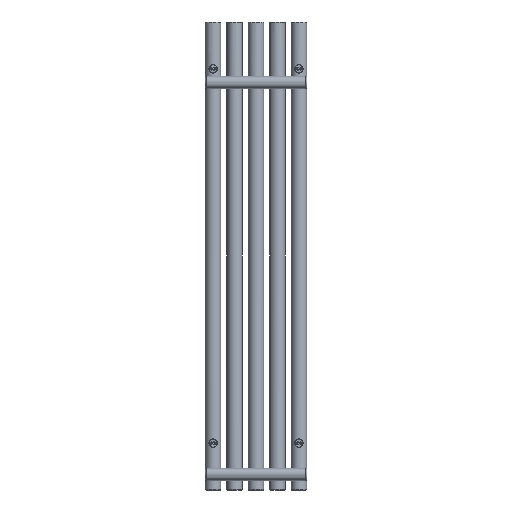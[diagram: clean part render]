
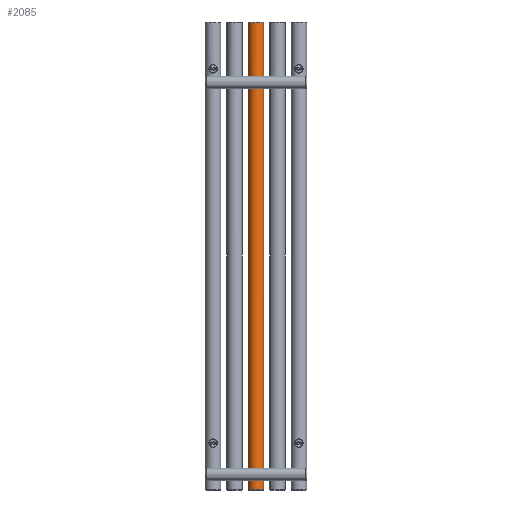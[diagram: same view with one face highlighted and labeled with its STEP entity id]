
A CAD part, front view. The second image highlights one B-rep face of the part: STEP entity #2085.
In plain terms, the highlighted cylindrical face has radius 20 mm (diameter 40 mm), a full revolution.
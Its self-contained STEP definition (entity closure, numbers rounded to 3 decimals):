
#169=FACE_BOUND('',#527,.T.);
#170=FACE_BOUND('',#528,.T.);
#199=LINE('',#3984,#273);
#273=VECTOR('',#2599,20.);
#347=CYLINDRICAL_SURFACE('',#2275,20.);
#381=FACE_OUTER_BOUND('',#526,.T.);
#526=EDGE_LOOP('',(#1470,#1471,#1472,#1473,#1474));
#527=EDGE_LOOP('',(#1475));
#528=EDGE_LOOP('',(#1476));
#692=B_SPLINE_CURVE_WITH_KNOTS('',3,(#3959,#3960,#3961,#3962,#3963,#3964,
#3965,#3966,#3967,#3968,#3969,#3970,#3971,#3972,#3973,#3974,#3975,#3976,
#3977,#3978),.UNSPECIFIED.,.T.,.F.,(4,1,1,1,1,1,1,1,1,1,1,1,1,1,1,1,1,4),
(-5.132,-4.765,-4.399,-3.91,
-3.666,-3.421,-3.177,-2.933,
-2.444,-2.322,-2.199,-1.955,
-1.711,-1.466,-1.1,-0.733,
-0.367,0.),.UNSPECIFIED.);
#693=B_SPLINE_CURVE_WITH_KNOTS('',3,(#3988,#3989,#3990,#3991,#3992,#3993,
#3994,#3995,#3996,#3997,#3998,#3999,#4000,#4001,#4002,#4003,#4004,#4005,
#4006),.UNSPECIFIED.,.T.,.F.,(4,1,1,1,1,1,1,1,1,1,1,1,1,1,1,1,4),(-5.132,
-4.765,-4.399,-3.91,-3.666,
-3.421,-3.177,-2.933,-2.444,
-2.199,-1.955,-1.711,-1.466,-1.1,
-0.733,-0.367,0.),.UNSPECIFIED.);
#749=CIRCLE('',#2276,20.);
#750=CIRCLE('',#2277,20.);
#751=CIRCLE('',#2278,20.);
#918=VERTEX_POINT('',#3957);
#919=VERTEX_POINT('',#3980);
#920=VERTEX_POINT('',#3981);
#921=VERTEX_POINT('',#3983);
#922=VERTEX_POINT('',#3987);
#1140=EDGE_CURVE('',#918,#918,#692,.T.);
#1141=EDGE_CURVE('',#919,#920,#749,.T.);
#1142=EDGE_CURVE('',#919,#921,#199,.T.);
#1143=EDGE_CURVE('',#921,#921,#750,.T.);
#1144=EDGE_CURVE('',#920,#919,#751,.T.);
#1145=EDGE_CURVE('',#922,#922,#693,.T.);
#1470=ORIENTED_EDGE('',*,*,#1141,.F.);
#1471=ORIENTED_EDGE('',*,*,#1142,.T.);
#1472=ORIENTED_EDGE('',*,*,#1143,.F.);
#1473=ORIENTED_EDGE('',*,*,#1142,.F.);
#1474=ORIENTED_EDGE('',*,*,#1144,.F.);
#1475=ORIENTED_EDGE('',*,*,#1145,.F.);
#1476=ORIENTED_EDGE('',*,*,#1140,.F.);
#2085=ADVANCED_FACE('',(#381,#169,#170),#347,.T.);
#2275=AXIS2_PLACEMENT_3D('',#3979,#2595,#2596);
#2276=AXIS2_PLACEMENT_3D('',#3982,#2597,#2598);
#2277=AXIS2_PLACEMENT_3D('',#3985,#2600,#2601);
#2278=AXIS2_PLACEMENT_3D('',#3986,#2602,#2603);
#2595=DIRECTION('center_axis',(0.,0.,1.));
#2596=DIRECTION('ref_axis',(-1.,0.,0.));
#2597=DIRECTION('center_axis',(0.,0.,1.));
#2598=DIRECTION('ref_axis',(-1.,0.,0.));
#2599=DIRECTION('',(0.,0.,-1.));
#2600=DIRECTION('center_axis',(0.,0.,-1.));
#2601=DIRECTION('ref_axis',(-1.,0.,0.));
#2602=DIRECTION('center_axis',(0.,0.,1.));
#2603=DIRECTION('ref_axis',(-1.,0.,0.));
#3957=CARTESIAN_POINT('',(-110.,-20.,50.1));
#3959=CARTESIAN_POINT('Ctrl Pts',(-110.,-20.,50.1));
#3960=CARTESIAN_POINT('Ctrl Pts',(-111.611,-20.,50.1));
#3961=CARTESIAN_POINT('Ctrl Pts',(-114.83,-19.61,49.58));
#3962=CARTESIAN_POINT('Ctrl Pts',(-119.319,-17.858,46.75));
#3963=CARTESIAN_POINT('Ctrl Pts',(-121.21,-16.549,41.99));
#3964=CARTESIAN_POINT('Ctrl Pts',(-120.866,-16.799,37.471));
#3965=CARTESIAN_POINT('Ctrl Pts',(-119.65,-17.551,34.432));
#3966=CARTESIAN_POINT('Ctrl Pts',(-117.534,-18.591,32.08));
#3967=CARTESIAN_POINT('Ctrl Pts',(-113.837,-19.818,30.087));
#3968=CARTESIAN_POINT('Ctrl Pts',(-109.97,-20.157,29.697));
#3969=CARTESIAN_POINT('Ctrl Pts',(-106.807,-19.763,30.226));
#3970=CARTESIAN_POINT('Ctrl Pts',(-104.776,-19.355,30.833));
#3971=CARTESIAN_POINT('Ctrl Pts',(-102.467,-18.591,32.083));
#3972=CARTESIAN_POINT('Ctrl Pts',(-100.35,-17.555,34.429));
#3973=CARTESIAN_POINT('Ctrl Pts',(-98.928,-16.663,37.98));
#3974=CARTESIAN_POINT('Ctrl Pts',(-98.922,-16.658,42.598));
#3975=CARTESIAN_POINT('Ctrl Pts',(-101.135,-18.048,47.029));
#3976=CARTESIAN_POINT('Ctrl Pts',(-105.165,-19.6,49.585));
#3977=CARTESIAN_POINT('Ctrl Pts',(-108.389,-20.,50.1));
#3978=CARTESIAN_POINT('Ctrl Pts',(-110.,-20.,50.1));
#3979=CARTESIAN_POINT('Origin',(-110.,0.,0.));
#3980=CARTESIAN_POINT('',(-90.,0.,1198.));
#3981=CARTESIAN_POINT('',(-130.,0.,1198.));
#3982=CARTESIAN_POINT('Origin',(-110.,0.,1198.));
#3983=CARTESIAN_POINT('',(-90.,0.,2.));
#3984=CARTESIAN_POINT('',(-90.,0.,0.));
#3985=CARTESIAN_POINT('Origin',(-110.,0.,2.));
#3986=CARTESIAN_POINT('Origin',(-110.,0.,1198.));
#3987=CARTESIAN_POINT('',(-110.,-20.,1055.1));
#3988=CARTESIAN_POINT('Ctrl Pts',(-110.,-20.,1055.1));
#3989=CARTESIAN_POINT('Ctrl Pts',(-111.611,-20.,1055.1));
#3990=CARTESIAN_POINT('Ctrl Pts',(-114.83,-19.611,1054.58));
#3991=CARTESIAN_POINT('Ctrl Pts',(-119.319,-17.859,1051.751));
#3992=CARTESIAN_POINT('Ctrl Pts',(-121.21,-16.549,1046.99));
#3993=CARTESIAN_POINT('Ctrl Pts',(-120.867,-16.8,1042.472));
#3994=CARTESIAN_POINT('Ctrl Pts',(-119.651,-17.553,1039.431));
#3995=CARTESIAN_POINT('Ctrl Pts',(-117.534,-18.59,1037.082));
#3996=CARTESIAN_POINT('Ctrl Pts',(-113.837,-19.819,1035.088));
#3997=CARTESIAN_POINT('Ctrl Pts',(-109.419,-20.203,1034.641));
#3998=CARTESIAN_POINT('Ctrl Pts',(-105.24,-19.503,1035.58));
#3999=CARTESIAN_POINT('Ctrl Pts',(-102.467,-18.593,1037.084));
#4000=CARTESIAN_POINT('Ctrl Pts',(-100.351,-17.554,1039.428));
#4001=CARTESIAN_POINT('Ctrl Pts',(-98.928,-16.664,1042.98));
#4002=CARTESIAN_POINT('Ctrl Pts',(-98.923,-16.658,1047.598));
#4003=CARTESIAN_POINT('Ctrl Pts',(-101.135,-18.048,1052.029));
#4004=CARTESIAN_POINT('Ctrl Pts',(-105.165,-19.6,1054.585));
#4005=CARTESIAN_POINT('Ctrl Pts',(-108.389,-20.,1055.1));
#4006=CARTESIAN_POINT('Ctrl Pts',(-110.,-20.,1055.1));
